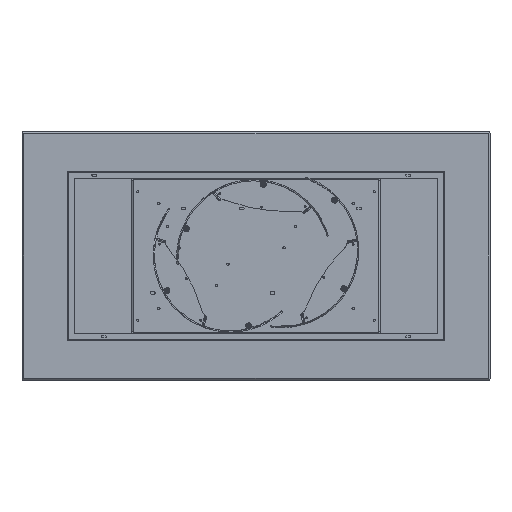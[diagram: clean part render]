
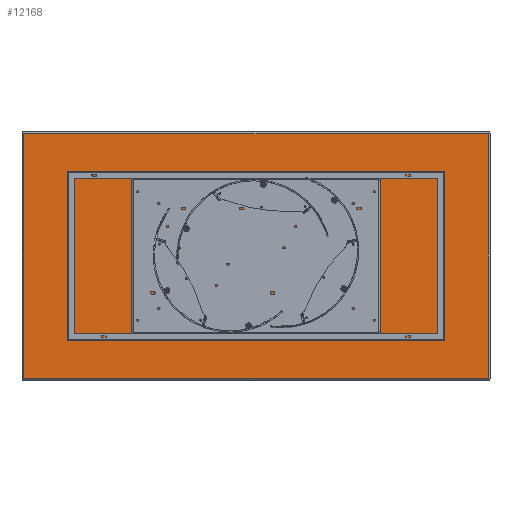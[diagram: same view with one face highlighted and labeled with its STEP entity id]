
A CAD part, front view. The second image highlights one B-rep face of the part: STEP entity #12168.
In plain terms, the highlighted planar face has unit normal (0, -1, 0).
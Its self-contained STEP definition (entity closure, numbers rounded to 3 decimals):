
#568 = CARTESIAN_POINT ( 'NONE',  ( 992., 0., 0. ) ) ;
#1369 = VECTOR ( 'NONE', #7218, 1000. ) ;
#1776 = EDGE_CURVE ( 'NONE', #19728, #2638, #7202, .T. ) ;
#2049 = CARTESIAN_POINT ( 'NONE',  ( 0., 0., 0. ) ) ;
#2378 = ORIENTED_EDGE ( 'NONE', *, *, #16731, .T. ) ;
#2638 = VERTEX_POINT ( 'NONE', #17726 ) ;
#3505 = DIRECTION ( 'NONE',  ( 0., 1., 0. ) ) ;
#3721 = EDGE_LOOP ( 'NONE', ( #10435, #7420, #6379, #2378 ) ) ;
#3723 = FACE_OUTER_BOUND ( 'NONE', #3721, .T. ) ;
#3800 = CARTESIAN_POINT ( 'NONE',  ( -992., 0., 0. ) ) ;
#4004 = DIRECTION ( 'NONE',  ( 0., 0., 1. ) ) ;
#6379 = ORIENTED_EDGE ( 'NONE', *, *, #14052, .T. ) ;
#6788 = CARTESIAN_POINT ( 'NONE',  ( -992., 0., -522. ) ) ;
#7202 = LINE ( 'NONE', #568, #21051 ) ;
#7218 = DIRECTION ( 'NONE',  ( 0., 0., -1. ) ) ;
#7420 = ORIENTED_EDGE ( 'NONE', *, *, #8536, .T. ) ;
#8047 = DIRECTION ( 'NONE',  ( 1., 0., 0. ) ) ;
#8366 = VERTEX_POINT ( 'NONE', #15976 ) ;
#8536 = EDGE_CURVE ( 'NONE', #2638, #8366, #14861, .T. ) ;
#10435 = ORIENTED_EDGE ( 'NONE', *, *, #1776, .T. ) ;
#11001 = DIRECTION ( 'NONE',  ( -1., 0., 0. ) ) ;
#11456 = LINE ( 'NONE', #14889, #16566 ) ;
#12168 = ADVANCED_FACE ( 'NONE', ( #3723 ), #17180, .F. ) ;
#13861 = DIRECTION ( 'NONE',  ( 0., 0., 1. ) ) ;
#13907 = VERTEX_POINT ( 'NONE', #6788 ) ;
#14052 = EDGE_CURVE ( 'NONE', #8366, #13907, #19033, .T. ) ;
#14437 = CARTESIAN_POINT ( 'NONE',  ( 992., 0., -522. ) ) ;
#14489 = VECTOR ( 'NONE', #11001, 1000. ) ;
#14861 = LINE ( 'NONE', #17855, #14489 ) ;
#14889 = CARTESIAN_POINT ( 'NONE',  ( 0., 0., -522. ) ) ;
#15976 = CARTESIAN_POINT ( 'NONE',  ( -992., 0., 522. ) ) ;
#16566 = VECTOR ( 'NONE', #8047, 1000. ) ;
#16731 = EDGE_CURVE ( 'NONE', #13907, #19728, #11456, .T. ) ;
#17180 = PLANE ( 'NONE',  #17673 ) ;
#17673 = AXIS2_PLACEMENT_3D ( 'NONE', #2049, #3505, #13861 ) ;
#17726 = CARTESIAN_POINT ( 'NONE',  ( 992., 0., 522. ) ) ;
#17855 = CARTESIAN_POINT ( 'NONE',  ( 0., 0., 522. ) ) ;
#19033 = LINE ( 'NONE', #3800, #1369 ) ;
#19728 = VERTEX_POINT ( 'NONE', #14437 ) ;
#21051 = VECTOR ( 'NONE', #4004, 1000. ) ;
